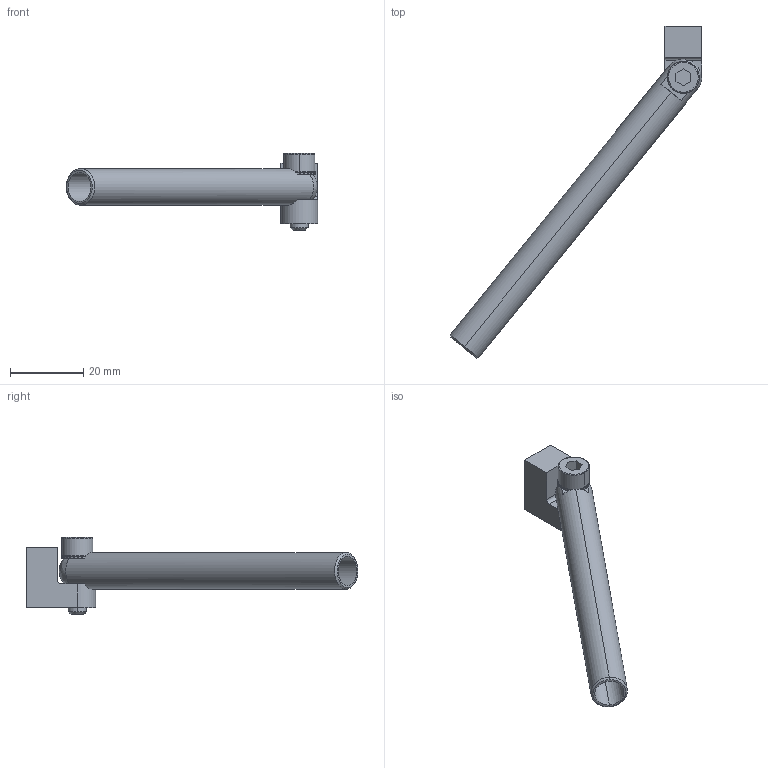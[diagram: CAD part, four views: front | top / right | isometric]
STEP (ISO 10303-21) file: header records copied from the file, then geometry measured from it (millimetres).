
FILE_DESCRIPTION (( 'STEP AP214' ), '1' );
FILE_NAME ('SEAV-M510L90.STEP', '2019-11-11T04:02:00', ( '微软用户' ), ( '微软中国' ), 'SwSTEP 2.0', 'SolidWorks 2016', '' );
FILE_SCHEMA (( 'AUTOMOTIVE_DESIGN' ));
Length unit declared in the file: millimetre
Products named in the file (1): SEAV-M510L90
Bounding box: 68.53 x 90.52 x 21 mm (x, y, z)
Volume: 5428.4 mm3; surface area: 7385.4 mm2
Topology: 4 solids, 4 shells, 251 faces, 713 edges, 467 vertices
Faces by surface type: plane 215, cylinder 23, cone 10, bspline 3
Entity records: 11208 total; most frequent: CARTESIAN_POINT 1668, DIRECTION 1439, ORIENTED_EDGE 1418, EDGE_CURVE 709, AXIS2_PLACEMENT_3D 491, VERTEX_POINT 467, VECTOR 457, LINE 457
